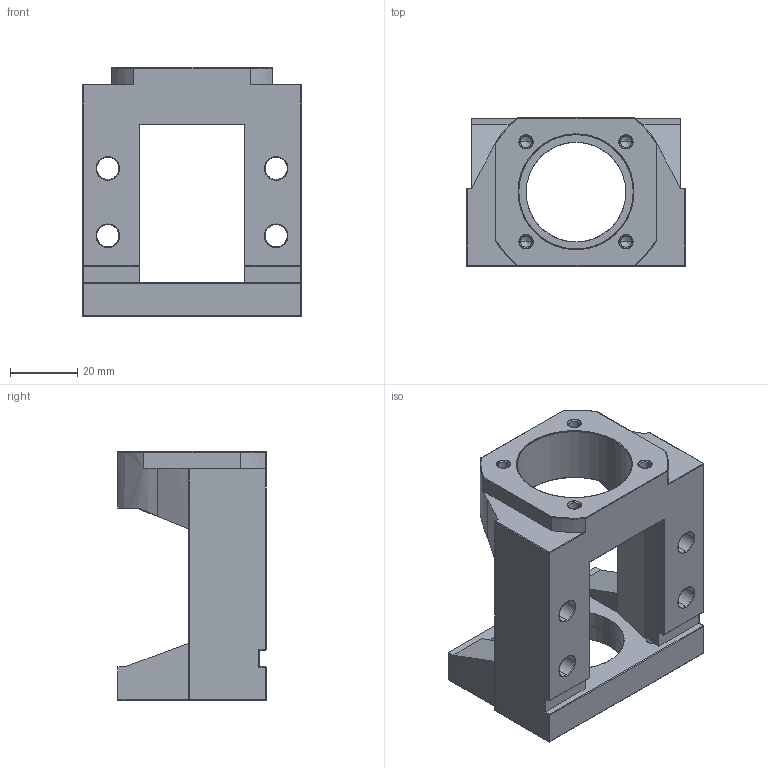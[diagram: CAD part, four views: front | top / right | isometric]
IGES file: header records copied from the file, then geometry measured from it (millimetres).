
Start section: SolidWorks IGES file using analytic representation for surfaces
Global section: file name: C:\Users\117\Desktop\1061208網站3D圖檔問題處理\傳動座\外露型\MBA\MBA10-B.IGS,15HSolidWorks; native system: 2017; preprocessor: SolidWorks 2017; author: 117; date: 171228.135857; units: millimetre
Bounding box: 65 x 44 x 74 mm (x, y, z)
Surface area: 24126 mm2 (no closed solid volume)
Topology: 0 solids, 0 shells, 210 faces, 2392 edges, 2368 vertices
Faces by surface type: revolution 129, bspline 81
